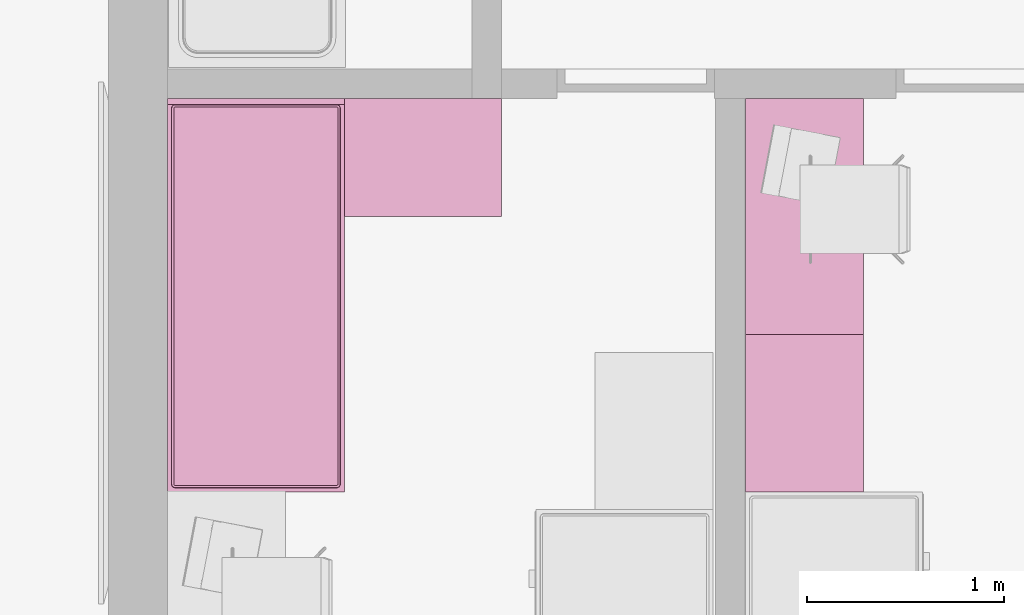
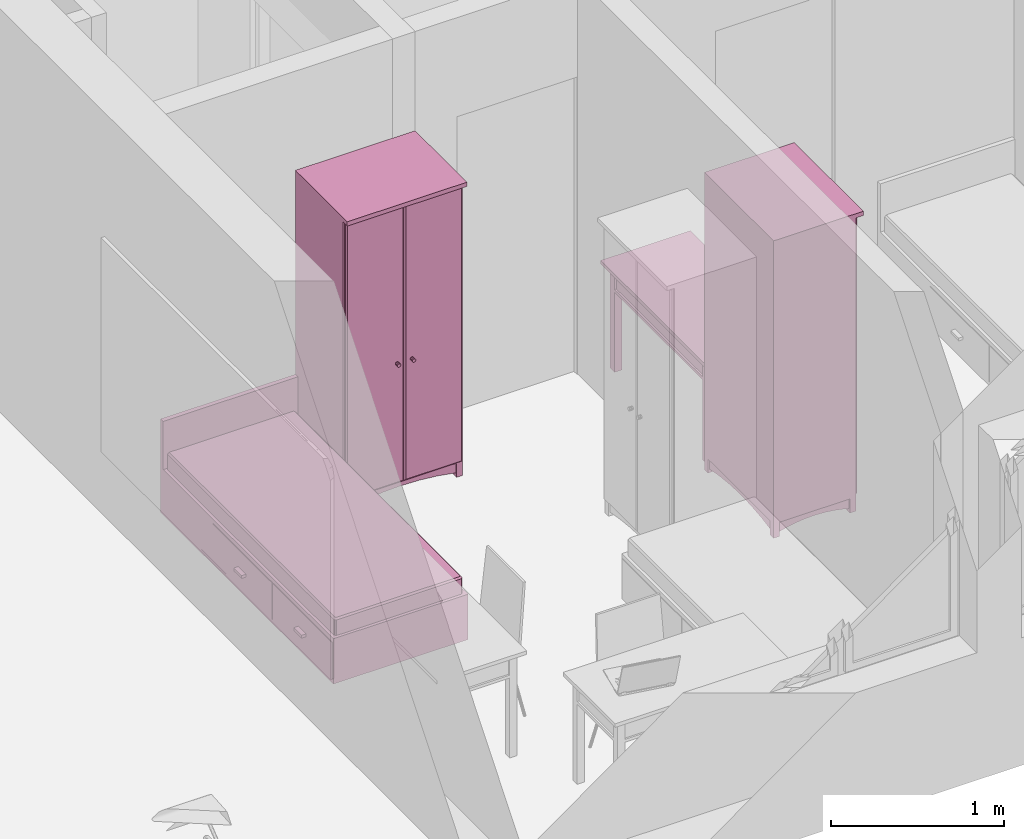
# One storey, part 117 of 165: 4 furnishings.
"""IFC2X3 building model written with IfcOpenShell, lengths in millimetres."""

from ifc_helpers import new_model, entity, si_unit, converted_unit, money_unit, direction, frame, origin_with_axes, place, context, subcontext, project, spatial, faceted_brep, source, transform, mapped, material, material_list, type_object, element, save


model = new_model("IFC2X3")

# Units and contexts
model_context = context("Model", 3, precision=1e-05, world=origin_with_axes(), true_north=direction((0.0, 1.0)))
body_context = subcontext(model_context, "Body", "Model", "MODEL_VIEW")
ifc_project = project(units=[si_unit("LENGTHUNIT", "METRE", prefix="MILLI"), si_unit("AREAUNIT", "SQUARE_METRE"), si_unit("VOLUMEUNIT", "CUBIC_METRE"), converted_unit("PLANEANGLEUNIT", "DEGREE", entity("IfcPlaneAngleMeasure", 0.0174532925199), si_unit("PLANEANGLEUNIT", "RADIAN"), dimensions=[0, 0, 0, 0, 0, 0, 0]), si_unit("SOLIDANGLEUNIT", "STERADIAN"), money_unit("USD"), converted_unit("TIMEUNIT", "Year", entity("IfcTimeMeasure", 31556926.0), si_unit("TIMEUNIT", "SECOND"), dimensions=[0, 0, 0, 0, 0, 0, 0]), si_unit("MASSUNIT", "GRAM"), si_unit("THERMODYNAMICTEMPERATUREUNIT", "DEGREE_CELSIUS"), si_unit("LUMINOUSINTENSITYUNIT", "LUMEN")], contexts=[model_context])

# Site, building, storey
site_placement = place(None, origin_with_axes())
site = spatial("IfcSite", under=ifc_project, at=site_placement, Name="Site", CompositionType="ELEMENT")
building_placement = place(site_placement, origin_with_axes())
building = spatial("IfcBuilding", under=site, at=building_placement, Name="Building", CompositionType="ELEMENT")
storey_placement = place(building_placement, frame((0.0, 0.0, 6300.0), z_axis=(0.0, 0.0, 1.0), x_axis=(1.0, 0.0, 0.0)))
storey = spatial("IfcBuildingStorey", under=building, at=storey_placement, Name="4KORRUS", CompositionType="ELEMENT", Elevation=6300.0)

# Furnishings
ifc_material = material(Name="Background")
ifc_material_list = material_list([ifc_material])
furnishing_element_type_1 = type_object("IfcFurnishingElementType", Name="Cupboard 19")
shared_shape_1 = source(origin_with_axes(), body_context, "Body", "Brep", [
    faceted_brep([(-780.0, 600.0, 120.0), (-780.0, 580.0, 120.0), (-780.0, 580.0, 2050.0), (-780.0, 600.0, 2050.0), (-20.0, 600.0, 120.0), (-20.0, 580.0, 120.0), (-20.0, 580.0, 2050.0), (-20.0, 600.0, 2050.0)], [[[0, 1, 2, 3]], [[0, 4, 5, 1]], [[1, 5, 6, 2]], [[3, 2, 6, 7]], [[4, 0, 3, 7]], [[5, 4, 7, 6]]]),
    faceted_brep([(0.0, 50.0, 100.0), (-20.0, 50.0, 100.0), (-20.0, 600.0, 100.0), (0.0, 600.0, 100.0), (0.0, 50.0, 2070.0), (-20.0, 50.0, 2070.0), (-20.0, 600.0, 2070.0), (0.0, 600.0, 2070.0)], [[[0, 1, 2, 3]], [[1, 0, 4, 5]], [[2, 1, 5, 6]], [[3, 2, 6, 7]], [[0, 3, 7, 4]], [[5, 4, 7, 6]]]),
    faceted_brep([(-780.0, 50.0, 100.0), (-800.0, 50.0, 100.0), (-800.0, 600.0, 100.0), (-780.0, 600.0, 100.0), (-780.0, 50.0, 2070.0), (-800.0, 50.0, 2070.0), (-800.0, 600.0, 2070.0), (-780.0, 600.0, 2070.0)], [[[0, 1, 2, 3]], [[1, 0, 4, 5]], [[2, 1, 5, 6]], [[3, 2, 6, 7]], [[0, 3, 7, 4]], [[5, 4, 7, 6]]]),
    faceted_brep([(-20.0, 50.0, 100.0), (-780.0, 50.0, 100.0), (-780.0, 600.0, 100.0), (-20.0, 600.0, 100.0), (-20.0, 50.0, 120.0), (-780.0, 50.0, 120.0), (-780.0, 600.0, 120.0), (-20.0, 600.0, 120.0)], [[[0, 1, 2, 3]], [[1, 0, 4, 5]], [[2, 1, 5, 6]], [[3, 2, 6, 7]], [[0, 3, 7, 4]], [[5, 4, 7, 6]]]),
    faceted_brep([(-20.0, 50.0, 2050.0), (-780.0, 50.0, 2050.0), (-780.0, 600.0, 2050.0), (-20.0, 600.0, 2050.0), (-20.0, 50.0, 2070.0), (-780.0, 50.0, 2070.0), (-780.0, 600.0, 2070.0), (-20.0, 600.0, 2070.0)], [[[0, 1, 2, 3]], [[1, 0, 4, 5]], [[2, 1, 5, 6]], [[3, 2, 6, 7]], [[0, 3, 7, 4]], [[5, 4, 7, 6]]]),
    faceted_brep([(0.0, 600.0, 2070.0), (0.0, 600.0, 2100.0), (0.0, 0.0, 2100.0), (0.0, 0.0, 2070.0), (-800.0, 600.0, 2070.0), (-800.0, 600.0, 2100.0), (-800.0, 0.0, 2100.0), (-800.0, 0.0, 2070.0)], [[[0, 1, 2, 3]], [[4, 5, 1, 0]], [[1, 5, 6, 2]], [[3, 2, 6, 7]], [[0, 3, 7, 4]], [[7, 6, 5, 4]]]),
    faceted_brep([(-760.0, 590.0, 25.0), (-640.962, 590.0, 45.8), (-640.962, 570.0, 45.8), (-760.0, 570.0, 25.0), (-760.0, 590.0, 100.0), (-40.0, 590.0, 100.0), (-40.0, 590.0, 25.0), (-159.038, 590.0, 45.8), (-279.23, 590.0, 58.32), (-400.0, 590.0, 62.5), (-520.77, 590.0, 58.32), (-520.77, 570.0, 58.32), (-400.0, 570.0, 62.5), (-279.23, 570.0, 58.32), (-159.038, 570.0, 45.8), (-40.0, 570.0, 25.0), (-40.0, 570.0, 100.0), (-760.0, 570.0, 100.0)], [[[0, 1, 2, 3]], [[0, 4, 5, 6, 7, 8, 9, 10, 1]], [[1, 10, 11, 2]], [[3, 2, 11, 12, 13, 14, 15, 16, 17]], [[4, 0, 3, 17]], [[5, 4, 17, 16]], [[6, 5, 16, 15]], [[7, 6, 15, 14]], [[8, 7, 14, 13]], [[9, 8, 13, 12]], [[10, 9, 12, 11]]]),
    faceted_brep([(-760.0, 80.0, 25.0), (-640.962, 80.0, 45.8), (-640.962, 60.0, 45.8), (-760.0, 60.0, 25.0), (-760.0, 80.0, 100.0), (-40.0, 80.0, 100.0), (-40.0, 80.0, 25.0), (-159.038, 80.0, 45.8), (-279.23, 80.0, 58.32), (-400.0, 80.0, 62.5), (-520.77, 80.0, 58.32), (-520.77, 60.0, 58.32), (-400.0, 60.0, 62.5), (-279.23, 60.0, 58.32), (-159.038, 60.0, 45.8), (-40.0, 60.0, 25.0), (-40.0, 60.0, 100.0), (-760.0, 60.0, 100.0)], [[[0, 1, 2, 3]], [[0, 4, 5, 6, 7, 8, 9, 10, 1]], [[1, 10, 11, 2]], [[3, 2, 11, 12, 13, 14, 15, 16, 17]], [[4, 0, 3, 17]], [[5, 4, 17, 16]], [[6, 5, 16, 15]], [[7, 6, 15, 14]], [[8, 7, 14, 13]], [[9, 8, 13, 12]], [[10, 9, 12, 11]]]),
    faceted_brep([(-790.0, 90.0, 25.0), (-790.0, 141.266, 38.072), (-770.0, 141.266, 38.072), (-770.0, 90.0, 25.0), (-790.0, 90.0, 100.0), (-790.0, 560.0, 100.0), (-790.0, 560.0, 25.0), (-790.0, 508.734, 38.072), (-790.0, 456.752, 47.92), (-790.0, 404.257, 54.508), (-790.0, 351.453, 57.808), (-790.0, 298.547, 57.808), (-790.0, 245.743, 54.508), (-790.0, 193.248, 47.92), (-770.0, 193.248, 47.92), (-770.0, 245.743, 54.508), (-770.0, 298.547, 57.808), (-770.0, 351.453, 57.808), (-770.0, 404.257, 54.508), (-770.0, 456.752, 47.92), (-770.0, 508.734, 38.072), (-770.0, 560.0, 25.0), (-770.0, 560.0, 100.0), (-770.0, 90.0, 100.0)], [[[0, 1, 2, 3]], [[0, 4, 5, 6, 7, 8, 9, 10, 11, 12, 13, 1]], [[1, 13, 14, 2]], [[3, 2, 14, 15, 16, 17, 18, 19, 20, 21, 22, 23]], [[4, 0, 3, 23]], [[5, 4, 23, 22]], [[6, 5, 22, 21]], [[7, 6, 21, 20]], [[8, 7, 20, 19]], [[9, 8, 19, 18]], [[10, 9, 18, 17]], [[11, 10, 17, 16]], [[12, 11, 16, 15]], [[13, 12, 15, 14]]]),
    faceted_brep([(-30.0, 90.0, 25.0), (-30.0, 141.266, 38.072), (-10.0, 141.266, 38.072), (-10.0, 90.0, 25.0), (-30.0, 90.0, 100.0), (-30.0, 560.0, 100.0), (-30.0, 560.0, 25.0), (-30.0, 508.734, 38.072), (-30.0, 456.752, 47.92), (-30.0, 404.257, 54.508), (-30.0, 351.453, 57.808), (-30.0, 298.547, 57.808), (-30.0, 245.743, 54.508), (-30.0, 193.248, 47.92), (-10.0, 193.248, 47.92), (-10.0, 245.743, 54.508), (-10.0, 298.547, 57.808), (-10.0, 351.453, 57.808), (-10.0, 404.257, 54.508), (-10.0, 456.752, 47.92), (-10.0, 508.734, 38.072), (-10.0, 560.0, 25.0), (-10.0, 560.0, 100.0), (-10.0, 90.0, 100.0)], [[[0, 1, 2, 3]], [[0, 4, 5, 6, 7, 8, 9, 10, 11, 12, 13, 1]], [[1, 13, 14, 2]], [[3, 2, 14, 15, 16, 17, 18, 19, 20, 21, 22, 23]], [[4, 0, 3, 23]], [[5, 4, 23, 22]], [[6, 5, 22, 21]], [[7, 6, 21, 20]], [[8, 7, 20, 19]], [[9, 8, 19, 18]], [[10, 9, 18, 17]], [[11, 10, 17, 16]], [[12, 11, 16, 15]], [[13, 12, 15, 14]]]),
    faceted_brep([(-760.0, 560.0, 0.0), (-760.0, 600.0, 0.0), (-760.0, 600.0, 100.0), (-760.0, 560.0, 100.0), (-800.0, 560.0, 0.0), (-800.0, 600.0, 0.0), (-800.0, 600.0, 100.0), (-800.0, 560.0, 100.0)], [[[0, 1, 2, 3]], [[0, 4, 5, 1]], [[1, 5, 6, 2]], [[3, 2, 6, 7]], [[4, 0, 3, 7]], [[5, 4, 7, 6]]]),
    faceted_brep([(0.0, 560.0, 0.0), (0.0, 600.0, 0.0), (0.0, 600.0, 100.0), (0.0, 560.0, 100.0), (-40.0, 560.0, 0.0), (-40.0, 600.0, 0.0), (-40.0, 600.0, 100.0), (-40.0, 560.0, 100.0)], [[[0, 1, 2, 3]], [[0, 4, 5, 1]], [[1, 5, 6, 2]], [[3, 2, 6, 7]], [[4, 0, 3, 7]], [[5, 4, 7, 6]]]),
    faceted_brep([(-760.0, 50.0, 0.0), (-760.0, 90.0, 0.0), (-760.0, 90.0, 100.0), (-760.0, 50.0, 100.0), (-800.0, 50.0, 0.0), (-800.0, 90.0, 0.0), (-800.0, 90.0, 100.0), (-800.0, 50.0, 100.0)], [[[0, 1, 2, 3]], [[0, 4, 5, 1]], [[1, 5, 6, 2]], [[3, 2, 6, 7]], [[4, 0, 3, 7]], [[5, 4, 7, 6]]]),
    faceted_brep([(0.0, 50.0, 0.0), (0.0, 90.0, 0.0), (0.0, 90.0, 100.0), (0.0, 50.0, 100.0), (-40.0, 50.0, 0.0), (-40.0, 90.0, 0.0), (-40.0, 90.0, 100.0), (-40.0, 50.0, 100.0)], [[[0, 1, 2, 3]], [[0, 4, 5, 1]], [[1, 5, 6, 2]], [[3, 2, 6, 7]], [[4, 0, 3, 7]], [[5, 4, 7, 6]]]),
    faceted_brep([(-780.0, 580.0, 587.5), (-780.0, 50.0, 587.5), (-780.0, 50.0, 607.5), (-780.0, 580.0, 607.5), (-20.0, 580.0, 587.5), (-20.0, 50.0, 587.5), (-20.0, 50.0, 607.5), (-20.0, 580.0, 607.5)], [[[0, 1, 2, 3]], [[0, 4, 5, 1]], [[1, 5, 6, 2]], [[3, 2, 6, 7]], [[4, 0, 3, 7]], [[5, 4, 7, 6]]]),
    faceted_brep([(-780.0, 580.0, 1075.0), (-780.0, 50.0, 1075.0), (-780.0, 50.0, 1095.0), (-780.0, 580.0, 1095.0), (-20.0, 580.0, 1075.0), (-20.0, 50.0, 1075.0), (-20.0, 50.0, 1095.0), (-20.0, 580.0, 1095.0)], [[[0, 1, 2, 3]], [[0, 4, 5, 1]], [[1, 5, 6, 2]], [[3, 2, 6, 7]], [[4, 0, 3, 7]], [[5, 4, 7, 6]]]),
    faceted_brep([(-780.0, 580.0, 1562.5), (-780.0, 50.0, 1562.5), (-780.0, 50.0, 1582.5), (-780.0, 580.0, 1582.5), (-20.0, 580.0, 1562.5), (-20.0, 50.0, 1562.5), (-20.0, 50.0, 1582.5), (-20.0, 580.0, 1582.5)], [[[0, 1, 2, 3]], [[0, 4, 5, 1]], [[1, 5, 6, 2]], [[3, 2, 6, 7]], [[4, 0, 3, 7]], [[5, 4, 7, 6]]]),
    faceted_brep([(-789.5, 50.0, 110.5), (-789.5, 50.0, 2059.5), (-400.5, 50.0, 2059.5), (-400.5, 50.0, 110.5), (-789.5, 40.0, 110.5), (-789.5, 40.0, 2059.5), (-400.5, 40.0, 2059.5), (-400.5, 40.0, 110.5), (-779.5, 30.0, 120.5), (-779.5, 30.0, 2049.5), (-410.5, 30.0, 2049.5), (-410.5, 30.0, 120.5)], [[[0, 1, 2, 3]], [[1, 0, 4, 5]], [[2, 1, 5, 6]], [[3, 2, 6, 7]], [[0, 3, 7, 4]], [[5, 4, 8, 9]], [[6, 5, 9, 10]], [[7, 6, 10, 11]], [[4, 7, 11, 8]], [[10, 9, 8, 11]]]),
    faceted_brep([(-399.5, 50.0, 110.5), (-399.5, 50.0, 2059.5), (-10.5, 50.0, 2059.5), (-10.5, 50.0, 110.5), (-399.5, 40.0, 110.5), (-399.5, 40.0, 2059.5), (-10.5, 40.0, 2059.5), (-10.5, 40.0, 110.5), (-389.5, 30.0, 120.5), (-389.5, 30.0, 2049.5), (-20.5, 30.0, 2049.5), (-20.5, 30.0, 120.5)], [[[0, 1, 2, 3]], [[1, 0, 4, 5]], [[2, 1, 5, 6]], [[3, 2, 6, 7]], [[0, 3, 7, 4]], [[5, 4, 8, 9]], [[6, 5, 9, 10]], [[7, 6, 10, 11]], [[4, 7, 11, 8]], [[10, 9, 8, 11]]]),
    faceted_brep([(-339.608, 30.0, 954.0), (-344.0, 30.0, 949.608), (-350.0, 30.0, 948.0), (-356.0, 30.0, 949.608), (-360.392, 30.0, 954.0), (-362.0, 30.0, 960.0), (-360.392, 30.0, 966.0), (-356.0, 30.0, 970.392), (-350.0, 30.0, 972.0), (-344.0, 30.0, 970.392), (-339.608, 30.0, 966.0), (-338.0, 30.0, 960.0), (-339.608, 5.0, 954.0), (-344.0, 5.0, 949.608), (-350.0, 5.0, 948.0), (-356.0, 5.0, 949.608), (-360.392, 5.0, 954.0), (-362.0, 5.0, 960.0), (-360.392, 5.0, 966.0), (-356.0, 5.0, 970.392), (-350.0, 5.0, 972.0), (-344.0, 5.0, 970.392), (-339.608, 5.0, 966.0), (-338.0, 5.0, 960.0)], [[[0, 1, 2, 3, 4, 5, 6, 7, 8, 9, 10, 11]], [[1, 0, 12, 13]], [[2, 1, 13, 14]], [[3, 2, 14, 15]], [[4, 3, 15, 16]], [[5, 4, 16, 17]], [[6, 5, 17, 18]], [[7, 6, 18, 19]], [[8, 7, 19, 20]], [[9, 8, 20, 21]], [[10, 9, 21, 22]], [[11, 10, 22, 23]], [[0, 11, 23, 12]], [[12, 23, 22, 21, 20, 19, 18, 17, 16, 15, 14, 13]]]),
    faceted_brep([(-460.392, 30.0, 954.0), (-462.0, 30.0, 960.0), (-460.392, 30.0, 966.0), (-456.0, 30.0, 970.392), (-450.0, 30.0, 972.0), (-444.0, 30.0, 970.392), (-439.608, 30.0, 966.0), (-438.0, 30.0, 960.0), (-439.608, 30.0, 954.0), (-444.0, 30.0, 949.608), (-450.0, 30.0, 948.0), (-456.0, 30.0, 949.608), (-460.392, 5.0, 954.0), (-462.0, 5.0, 960.0), (-460.392, 5.0, 966.0), (-456.0, 5.0, 970.392), (-450.0, 5.0, 972.0), (-444.0, 5.0, 970.392), (-439.608, 5.0, 966.0), (-438.0, 5.0, 960.0), (-439.608, 5.0, 954.0), (-444.0, 5.0, 949.608), (-450.0, 5.0, 948.0), (-456.0, 5.0, 949.608)], [[[0, 1, 2, 3, 4, 5, 6, 7, 8, 9, 10, 11]], [[0, 12, 13, 1]], [[1, 13, 14, 2]], [[2, 14, 15, 3]], [[3, 15, 16, 4]], [[4, 16, 17, 5]], [[5, 17, 18, 6]], [[6, 18, 19, 7]], [[7, 19, 20, 8]], [[8, 20, 21, 9]], [[9, 21, 22, 10]], [[10, 22, 23, 11]], [[11, 23, 12, 0]], [[12, 23, 22, 21, 20, 19, 18, 17, 16, 15, 14, 13]]]),
])
for number, where, z_axis, x_axis, name in (
    (1, (-4290.29670331, -16039.2398994, 0.0), (0.0, 0.0, 1.0), (1.0, 0.0, 0.0), "FU - 014"),
    (2, (-2450.43715218, -16639.2398994, 0.0), (0.0, 0.0, 1.0), (0.0, 1.0, 0.0), "FU - 014"),
):
    element("IfcFurnishingElement", number, at=place(storey_placement, frame(where, z_axis=z_axis, x_axis=x_axis)), inside=storey, type_object=furnishing_element_type_1, material=ifc_material_list, Name=name, context=body_context, shape_type="MappedRepresentation", body=[
        mapped(shared_shape_1, transform((0.0, 0.0, 0.0))),
    ])
furnishing_element_type_2 = type_object("IfcFurnishingElementType", Name="Bed 19")
shared_shape_2 = source(origin_with_axes(), body_context, "Body", "Brep", [
    faceted_brep([(-900.0, 1970.0, 0.0), (-900.0, 2000.0, 0.0), (0.0, 2000.0, 0.0), (0.0, 1970.0, 0.0), (-900.0, 1970.0, 660.0), (-900.0, 2000.0, 660.0), (0.0, 2000.0, 660.0), (0.0, 1970.0, 660.0)], [[[0, 1, 2, 3]], [[0, 4, 5, 1]], [[1, 5, 6, 2]], [[2, 6, 7, 3]], [[3, 7, 4, 0]], [[7, 6, 5, 4]]]),
    faceted_brep([(-900.0, 0.0, 0.0), (-900.0, 1970.0, 0.0), (0.0, 1970.0, 0.0), (0.0, 0.0, 0.0), (-900.0, 0.0, 320.0), (-900.0, 1970.0, 320.0), (0.0, 1970.0, 320.0), (0.0, 0.0, 320.0)], [[[0, 1, 2, 3]], [[0, 4, 5, 1]], [[1, 5, 6, 2]], [[2, 6, 7, 3]], [[3, 7, 4, 0]], [[7, 6, 5, 4]]]),
    faceted_brep([(-905.0, 10.0, 30.0), (-905.0, 695.0, 30.0), (-900.0, 695.0, 30.0), (-900.0, 10.0, 30.0), (-905.0, 10.0, 290.0), (-905.0, 695.0, 290.0), (-900.0, 695.0, 290.0), (-900.0, 10.0, 290.0)], [[[0, 1, 2, 3]], [[0, 4, 5, 1]], [[1, 5, 6, 2]], [[2, 6, 7, 3]], [[3, 7, 4, 0]], [[7, 6, 5, 4]]]),
    faceted_brep([(-935.0, 307.5, 150.0), (-935.0, 397.5, 150.0), (-905.0, 397.5, 150.0), (-905.0, 307.5, 150.0), (-935.0, 307.5, 170.0), (-935.0, 397.5, 170.0), (-905.0, 397.5, 170.0), (-905.0, 307.5, 170.0)], [[[0, 1, 2, 3]], [[0, 4, 5, 1]], [[1, 5, 6, 2]], [[2, 6, 7, 3]], [[3, 7, 4, 0]], [[7, 6, 5, 4]]]),
    faceted_brep([(-905.0, 705.0, 30.0), (-905.0, 1390.0, 30.0), (-900.0, 1390.0, 30.0), (-900.0, 705.0, 30.0), (-905.0, 705.0, 290.0), (-905.0, 1390.0, 290.0), (-900.0, 1390.0, 290.0), (-900.0, 705.0, 290.0)], [[[0, 1, 2, 3]], [[0, 4, 5, 1]], [[1, 5, 6, 2]], [[2, 6, 7, 3]], [[3, 7, 4, 0]], [[7, 6, 5, 4]]]),
    faceted_brep([(-935.0, 1002.5, 150.0), (-935.0, 1092.5, 150.0), (-905.0, 1092.5, 150.0), (-905.0, 1002.5, 150.0), (-935.0, 1002.5, 170.0), (-935.0, 1092.5, 170.0), (-905.0, 1092.5, 170.0), (-905.0, 1002.5, 170.0)], [[[0, 1, 2, 3]], [[0, 4, 5, 1]], [[1, 5, 6, 2]], [[2, 6, 7, 3]], [[3, 7, 4, 0]], [[7, 6, 5, 4]]]),
    faceted_brep([(-20.0, 40.0, 350.0), (-21.522, 32.346, 350.0), (-25.858, 25.858, 350.0), (-32.346, 21.522, 350.0), (-40.0, 20.0, 350.0), (-860.0, 20.0, 350.0), (-867.654, 21.522, 350.0), (-874.142, 25.858, 350.0), (-878.478, 32.346, 350.0), (-880.0, 40.0, 350.0), (-880.0, 1950.0, 350.0), (-878.478, 1957.654, 350.0), (-874.142, 1964.142, 350.0), (-867.654, 1968.478, 350.0), (-860.0, 1970.0, 350.0), (-40.0, 1970.0, 350.0), (-32.346, 1968.478, 350.0), (-25.858, 1964.142, 350.0), (-21.522, 1957.654, 350.0), (-20.0, 1950.0, 350.0), (-20.0, 40.0, 420.0), (-21.522, 32.346, 420.0), (-25.858, 25.858, 420.0), (-32.346, 21.522, 420.0), (-40.0, 20.0, 420.0), (-860.0, 20.0, 420.0), (-867.654, 21.522, 420.0), (-874.142, 25.858, 420.0), (-878.478, 32.346, 420.0), (-880.0, 40.0, 420.0), (-880.0, 1950.0, 420.0), (-878.478, 1957.654, 420.0), (-874.142, 1964.142, 420.0), (-867.654, 1968.478, 420.0), (-860.0, 1970.0, 420.0), (-40.0, 1970.0, 420.0), (-32.346, 1968.478, 420.0), (-25.858, 1964.142, 420.0), (-21.522, 1957.654, 420.0), (-20.0, 1950.0, 420.0), (-21.522, 40.15, 427.654), (-22.956, 32.94, 427.654), (-26.955, 26.955, 427.654), (-32.94, 22.956, 427.654), (-40.15, 21.522, 427.654), (-859.85, 21.522, 427.654), (-867.06, 22.956, 427.654), (-873.045, 26.955, 427.654), (-877.044, 32.94, 427.654), (-878.478, 40.15, 427.654), (-878.478, 1949.85, 427.654), (-877.044, 1957.06, 427.654), (-873.045, 1963.045, 427.654), (-867.06, 1967.044, 427.654), (-859.85, 1968.478, 427.654), (-40.15, 1968.478, 427.654), (-32.94, 1967.044, 427.654), (-26.955, 1963.045, 427.654), (-22.956, 1957.06, 427.654), (-21.522, 1949.85, 427.654), (-32.346, 41.216, 438.478), (-33.152, 37.164, 438.478), (-34.759, 34.759, 438.478), (-37.164, 33.152, 438.478), (-41.216, 32.346, 438.478), (-858.784, 32.346, 438.478), (-862.836, 33.152, 438.478), (-865.241, 34.759, 438.478), (-866.848, 37.164, 438.478), (-867.654, 41.216, 438.478), (-867.654, 1948.784, 438.478), (-866.848, 1952.836, 438.478), (-865.241, 1955.241, 438.478), (-862.836, 1956.848, 438.478), (-858.784, 1957.654, 438.478), (-41.216, 1957.654, 438.478), (-37.164, 1956.848, 438.478), (-34.759, 1955.241, 438.478), (-33.152, 1952.836, 438.478), (-32.346, 1948.784, 438.478), (-40.0, 41.97, 440.0), (-40.327, 40.327, 440.0), (-40.0, 40.0, 439.924), (-41.97, 40.0, 440.0), (-858.03, 40.0, 440.0), (-859.673, 40.327, 440.0), (-860.0, 40.0, 439.924), (-860.0, 41.97, 440.0), (-860.0, 1948.03, 440.0), (-859.673, 1949.673, 440.0), (-860.0, 1950.0, 439.924), (-858.03, 1950.0, 440.0), (-41.97, 1950.0, 440.0), (-40.327, 1949.673, 440.0), (-40.0, 1950.0, 439.924), (-40.0, 1948.03, 440.0)], [[[0, 1, 2, 3, 4, 5, 6, 7, 8, 9, 10, 11, 12, 13, 14, 15, 16, 17, 18, 19]], [[0, 20, 21, 1]], [[1, 21, 22, 2]], [[2, 22, 23, 3]], [[3, 23, 24, 4]], [[4, 24, 25, 5]], [[5, 25, 26, 6]], [[6, 26, 27, 7]], [[7, 27, 28, 8]], [[8, 28, 29, 9]], [[9, 29, 30, 10]], [[10, 30, 31, 11]], [[11, 31, 32, 12]], [[12, 32, 33, 13]], [[13, 33, 34, 14]], [[14, 34, 35, 15]], [[15, 35, 36, 16]], [[16, 36, 37, 17]], [[17, 37, 38, 18]], [[18, 38, 39, 19]], [[19, 39, 20, 0]], [[20, 40, 41, 21]], [[21, 41, 42, 22]], [[22, 42, 43, 23]], [[23, 43, 44, 24]], [[24, 44, 45, 25]], [[25, 45, 46, 26]], [[26, 46, 47, 27]], [[27, 47, 48, 28]], [[28, 48, 49, 29]], [[29, 49, 50, 30]], [[30, 50, 51, 31]], [[31, 51, 52, 32]], [[32, 52, 53, 33]], [[33, 53, 54, 34]], [[34, 54, 55, 35]], [[35, 55, 56, 36]], [[36, 56, 57, 37]], [[37, 57, 58, 38]], [[38, 58, 59, 39]], [[39, 59, 40, 20]], [[40, 60, 61, 41]], [[41, 61, 62, 42]], [[42, 62, 63, 43]], [[43, 63, 64, 44]], [[44, 64, 65, 45]], [[45, 65, 66, 46]], [[46, 66, 67, 47]], [[47, 67, 68, 48]], [[48, 68, 69, 49]], [[49, 69, 70, 50]], [[50, 70, 71, 51]], [[51, 71, 72, 52]], [[52, 72, 73, 53]], [[53, 73, 74, 54]], [[54, 74, 75, 55]], [[55, 75, 76, 56]], [[56, 76, 77, 57]], [[57, 77, 78, 58]], [[58, 78, 79, 59]], [[59, 79, 60, 40]], [[60, 80, 81, 82, 61]], [[61, 82, 62]], [[62, 82, 63]], [[63, 82, 81, 83, 64]], [[64, 83, 84, 65]], [[65, 84, 85, 86, 66]], [[66, 86, 67]], [[67, 86, 68]], [[68, 86, 85, 87, 69]], [[69, 87, 88, 70]], [[70, 88, 89, 90, 71]], [[71, 90, 72]], [[72, 90, 73]], [[73, 90, 89, 91, 74]], [[74, 91, 92, 75]], [[75, 92, 93, 94, 76]], [[76, 94, 77]], [[77, 94, 78]], [[78, 94, 93, 95, 79]], [[79, 95, 80, 60]], [[95, 93, 92, 91, 89, 88, 87, 85, 84, 83, 81, 80]]]),
    faceted_brep([(-20.0, 40.0, 350.0), (-20.0, 1950.0, 350.0), (-21.522, 1957.654, 350.0), (-25.858, 1964.142, 350.0), (-32.346, 1968.478, 350.0), (-40.0, 1970.0, 350.0), (-860.0, 1970.0, 350.0), (-867.654, 1968.478, 350.0), (-874.142, 1964.142, 350.0), (-878.478, 1957.654, 350.0), (-880.0, 1950.0, 350.0), (-880.0, 40.0, 350.0), (-878.478, 32.346, 350.0), (-874.142, 25.858, 350.0), (-867.654, 21.522, 350.0), (-860.0, 20.0, 350.0), (-40.0, 20.0, 350.0), (-32.346, 21.522, 350.0), (-25.858, 25.858, 350.0), (-21.522, 32.346, 350.0), (-20.0, 40.0, 320.0), (-20.0, 1950.0, 320.0), (-21.522, 1957.654, 320.0), (-25.858, 1964.142, 320.0), (-32.346, 1968.478, 320.0), (-40.0, 1970.0, 320.0), (-860.0, 1970.0, 320.0), (-867.654, 1968.478, 320.0), (-874.142, 1964.142, 320.0), (-878.478, 1957.654, 320.0), (-880.0, 1950.0, 320.0), (-880.0, 40.0, 320.0), (-878.478, 32.346, 320.0), (-874.142, 25.858, 320.0), (-867.654, 21.522, 320.0), (-860.0, 20.0, 320.0), (-40.0, 20.0, 320.0), (-32.346, 21.522, 320.0), (-25.858, 25.858, 320.0), (-21.522, 32.346, 320.0)], [[[0, 1, 2, 3, 4, 5, 6, 7, 8, 9, 10, 11, 12, 13, 14, 15, 16, 17, 18, 19]], [[1, 0, 20, 21]], [[2, 1, 21, 22]], [[3, 2, 22, 23]], [[4, 3, 23, 24]], [[5, 4, 24, 25]], [[6, 5, 25, 26]], [[7, 6, 26, 27]], [[8, 7, 27, 28]], [[9, 8, 28, 29]], [[10, 9, 29, 30]], [[11, 10, 30, 31]], [[12, 11, 31, 32]], [[13, 12, 32, 33]], [[14, 13, 33, 34]], [[15, 14, 34, 35]], [[16, 15, 35, 36]], [[17, 16, 36, 37]], [[18, 17, 37, 38]], [[19, 18, 38, 39]], [[0, 19, 39, 20]], [[20, 39, 38, 37, 36, 35, 34, 33, 32, 31, 30, 29, 28, 27, 26, 25, 24, 23, 22, 21]]]),
])
furnishing_1_placement = place(storey_placement, frame((-5090.29670331, -17439.2398994, 0.0), z_axis=(0.0, 0.0, 1.0), x_axis=(1.0, 0.0, 0.0)))
element("IfcFurnishingElement", 3, at=furnishing_1_placement, inside=storey, type_object=furnishing_element_type_2, material=ifc_material_list, Name="FU - 013", context=body_context, shape_type="MappedRepresentation", body=[
    mapped(shared_shape_2, transform((0.0, 0.0, 0.0))),
])
furnishing_element_type_3 = type_object("IfcFurnishingElementType", Name="Rectangular Table 01 19")
shared_shape_3 = source(origin_with_axes(), body_context, "Body", "Brep", [
    faceted_brep([(-90.0, 40.0, 0.0), (-90.0, 90.0, 0.0), (-40.0, 90.0, 0.0), (-40.0, 40.0, 0.0), (-90.0, 40.0, 725.0), (-90.0, 90.0, 725.0), (-40.0, 90.0, 725.0), (-40.0, 40.0, 725.0)], [[[0, 1, 2, 3]], [[0, 4, 5, 1]], [[1, 5, 6, 2]], [[2, 6, 7, 3]], [[3, 7, 4, 0]], [[7, 6, 5, 4]]]),
    faceted_brep([(-1160.0, 40.0, 0.0), (-1160.0, 90.0, 0.0), (-1110.0, 90.0, 0.0), (-1110.0, 40.0, 0.0), (-1160.0, 40.0, 725.0), (-1160.0, 90.0, 725.0), (-1110.0, 90.0, 725.0), (-1110.0, 40.0, 725.0)], [[[0, 1, 2, 3]], [[0, 4, 5, 1]], [[1, 5, 6, 2]], [[2, 6, 7, 3]], [[3, 7, 4, 0]], [[7, 6, 5, 4]]]),
    faceted_brep([(-90.0, 510.0, 0.0), (-90.0, 560.0, 0.0), (-40.0, 560.0, 0.0), (-40.0, 510.0, 0.0), (-90.0, 510.0, 725.0), (-90.0, 560.0, 725.0), (-40.0, 560.0, 725.0), (-40.0, 510.0, 725.0)], [[[0, 1, 2, 3]], [[0, 4, 5, 1]], [[1, 5, 6, 2]], [[2, 6, 7, 3]], [[3, 7, 4, 0]], [[7, 6, 5, 4]]]),
    faceted_brep([(-1160.0, 510.0, 0.0), (-1160.0, 560.0, 0.0), (-1110.0, 560.0, 0.0), (-1110.0, 510.0, 0.0), (-1160.0, 510.0, 725.0), (-1160.0, 560.0, 725.0), (-1110.0, 560.0, 725.0), (-1110.0, 510.0, 725.0)], [[[0, 1, 2, 3]], [[0, 4, 5, 1]], [[1, 5, 6, 2]], [[2, 6, 7, 3]], [[3, 7, 4, 0]], [[7, 6, 5, 4]]]),
    faceted_brep([(-1160.0, 40.0, 565.0), (-1160.0, 560.0, 565.0), (-40.0, 560.0, 565.0), (-40.0, 40.0, 565.0), (-1160.0, 40.0, 585.0), (-1160.0, 560.0, 585.0), (-40.0, 560.0, 585.0), (-40.0, 40.0, 585.0)], [[[0, 1, 2, 3]], [[0, 4, 5, 1]], [[1, 5, 6, 2]], [[2, 6, 7, 3]], [[3, 7, 4, 0]], [[7, 6, 5, 4]]]),
    faceted_brep([(-1110.0, 52.5, 585.0), (-1110.0, 77.5, 585.0), (-90.0, 77.5, 585.0), (-90.0, 52.5, 585.0), (-1110.0, 52.5, 745.0), (-1110.0, 77.5, 745.0), (-90.0, 77.5, 745.0), (-90.0, 52.5, 745.0)], [[[0, 1, 2, 3]], [[0, 4, 5, 1]], [[1, 5, 6, 2]], [[2, 6, 7, 3]], [[3, 7, 4, 0]], [[7, 6, 5, 4]]]),
    faceted_brep([(-77.5, 90.0, 585.0), (-77.5, 510.0, 585.0), (-52.5, 510.0, 585.0), (-52.5, 90.0, 585.0), (-77.5, 90.0, 745.0), (-77.5, 510.0, 745.0), (-52.5, 510.0, 745.0), (-52.5, 90.0, 745.0)], [[[0, 1, 2, 3]], [[0, 4, 5, 1]], [[1, 5, 6, 2]], [[2, 6, 7, 3]], [[3, 7, 4, 0]], [[7, 6, 5, 4]]]),
    faceted_brep([(-90.0, 547.5, 585.0), (-90.0, 522.5, 585.0), (-1110.0, 522.5, 585.0), (-1110.0, 547.5, 585.0), (-90.0, 547.5, 745.0), (-90.0, 522.5, 745.0), (-1110.0, 522.5, 745.0), (-1110.0, 547.5, 745.0)], [[[0, 1, 2, 3]], [[0, 4, 5, 1]], [[1, 5, 6, 2]], [[2, 6, 7, 3]], [[3, 7, 4, 0]], [[7, 6, 5, 4]]]),
    faceted_brep([(-1122.5, 510.0, 585.0), (-1122.5, 90.0, 585.0), (-1147.5, 90.0, 585.0), (-1147.5, 510.0, 585.0), (-1122.5, 510.0, 745.0), (-1122.5, 90.0, 745.0), (-1147.5, 90.0, 745.0), (-1147.5, 510.0, 745.0)], [[[0, 1, 2, 3]], [[0, 4, 5, 1]], [[1, 5, 6, 2]], [[2, 6, 7, 3]], [[3, 7, 4, 0]], [[7, 6, 5, 4]]]),
    faceted_brep([(-597.5, 40.0, 585.0), (-597.5, 60.0, 585.0), (-95.0, 60.0, 585.0), (-95.0, 40.0, 585.0), (-597.5, 40.0, 745.0), (-597.5, 60.0, 745.0), (-95.0, 60.0, 745.0), (-95.0, 40.0, 745.0)], [[[0, 1, 2, 3]], [[0, 4, 5, 1]], [[1, 5, 6, 2]], [[2, 6, 7, 3]], [[3, 7, 4, 0]], [[7, 6, 5, 4]]]),
    faceted_brep([(-1105.0, 40.0, 585.0), (-1105.0, 60.0, 585.0), (-602.5, 60.0, 585.0), (-602.5, 40.0, 585.0), (-1105.0, 40.0, 745.0), (-1105.0, 60.0, 745.0), (-602.5, 60.0, 745.0), (-602.5, 40.0, 745.0)], [[[0, 1, 2, 3]], [[0, 4, 5, 1]], [[1, 5, 6, 2]], [[2, 6, 7, 3]], [[3, 7, 4, 0]], [[7, 6, 5, 4]]]),
    faceted_brep([(-354.91, 40.0, 660.0), (-356.25, 40.0, 665.0), (-354.91, 40.0, 670.0), (-351.25, 40.0, 673.66), (-346.25, 40.0, 675.0), (-341.25, 40.0, 673.66), (-337.59, 40.0, 670.0), (-336.25, 40.0, 665.0), (-337.59, 40.0, 660.0), (-341.25, 40.0, 656.34), (-346.25, 40.0, 655.0), (-351.25, 40.0, 656.34), (-354.91, 25.0, 660.0), (-356.25, 25.0, 665.0), (-354.91, 25.0, 670.0), (-351.25, 25.0, 673.66), (-346.25, 25.0, 675.0), (-341.25, 25.0, 673.66), (-337.59, 25.0, 670.0), (-336.25, 25.0, 665.0), (-337.59, 25.0, 660.0), (-341.25, 25.0, 656.34), (-346.25, 25.0, 655.0), (-351.25, 25.0, 656.34)], [[[0, 1, 2, 3, 4, 5, 6, 7, 8, 9, 10, 11]], [[0, 12, 13, 1]], [[1, 13, 14, 2]], [[2, 14, 15, 3]], [[3, 15, 16, 4]], [[4, 16, 17, 5]], [[5, 17, 18, 6]], [[6, 18, 19, 7]], [[7, 19, 20, 8]], [[8, 20, 21, 9]], [[9, 21, 22, 10]], [[10, 22, 23, 11]], [[11, 23, 12, 0]], [[12, 23, 22, 21, 20, 19, 18, 17, 16, 15, 14, 13]]]),
    faceted_brep([(-356.25, 12.01, 665.0), (-354.91, 12.01, 660.0), (-346.25, 10.0, 665.0), (-363.571, 17.5, 665.0), (-361.25, 17.5, 656.34), (-351.25, 12.01, 656.34), (-354.91, 12.01, 670.0), (-366.25, 25.0, 665.0), (-363.571, 25.0, 655.0), (-354.91, 17.5, 650.0), (-361.25, 17.5, 673.66), (-346.25, 12.01, 655.0), (-351.25, 12.01, 673.66), (-363.571, 25.0, 675.0), (-356.25, 25.0, 682.321), (-346.25, 25.0, 685.0), (-336.25, 25.0, 682.321), (-328.929, 25.0, 675.0), (-326.25, 25.0, 665.0), (-328.929, 25.0, 655.0), (-336.25, 25.0, 647.679), (-346.25, 25.0, 645.0), (-356.25, 25.0, 647.679), (-346.25, 17.5, 647.679), (-354.91, 17.5, 680.0), (-341.25, 12.01, 656.34), (-346.25, 12.01, 675.0), (-346.25, 17.5, 682.321), (-337.59, 17.5, 680.0), (-331.25, 17.5, 673.66), (-328.929, 17.5, 665.0), (-331.25, 17.5, 656.34), (-337.59, 17.5, 650.0), (-337.59, 12.01, 660.0), (-341.25, 12.01, 673.66), (-337.59, 12.01, 670.0), (-336.25, 12.01, 665.0)], [[[0, 1, 2]], [[3, 4, 1, 0]], [[1, 5, 2]], [[6, 0, 2]], [[7, 8, 4, 3]], [[4, 9, 5, 1]], [[10, 3, 0, 6]], [[5, 11, 2]], [[12, 6, 2]], [[8, 7, 13, 14, 15, 16, 17, 18, 19, 20, 21, 22]], [[8, 22, 9, 4]], [[13, 7, 3, 10]], [[9, 23, 11, 5]], [[24, 10, 6, 12]], [[11, 25, 2]], [[26, 12, 2]], [[14, 13, 10, 24]], [[15, 14, 24, 27]], [[16, 15, 27, 28]], [[17, 16, 28, 29]], [[18, 17, 29, 30]], [[19, 18, 30, 31]], [[20, 19, 31, 32]], [[21, 20, 32, 23]], [[22, 21, 23, 9]], [[23, 32, 25, 11]], [[27, 24, 12, 26]], [[25, 33, 2]], [[34, 26, 2]], [[28, 27, 26, 34]], [[29, 28, 34, 35]], [[30, 29, 35, 36]], [[31, 30, 36, 33]], [[32, 31, 33, 25]], [[33, 36, 2]], [[35, 34, 2]], [[36, 35, 2]]]),
    faceted_brep([(-862.41, 40.0, 660.0), (-863.75, 40.0, 665.0), (-862.41, 40.0, 670.0), (-858.75, 40.0, 673.66), (-853.75, 40.0, 675.0), (-848.75, 40.0, 673.66), (-845.09, 40.0, 670.0), (-843.75, 40.0, 665.0), (-845.09, 40.0, 660.0), (-848.75, 40.0, 656.34), (-853.75, 40.0, 655.0), (-858.75, 40.0, 656.34), (-862.41, 25.0, 660.0), (-863.75, 25.0, 665.0), (-862.41, 25.0, 670.0), (-858.75, 25.0, 673.66), (-853.75, 25.0, 675.0), (-848.75, 25.0, 673.66), (-845.09, 25.0, 670.0), (-843.75, 25.0, 665.0), (-845.09, 25.0, 660.0), (-848.75, 25.0, 656.34), (-853.75, 25.0, 655.0), (-858.75, 25.0, 656.34)], [[[0, 1, 2, 3, 4, 5, 6, 7, 8, 9, 10, 11]], [[0, 12, 13, 1]], [[1, 13, 14, 2]], [[2, 14, 15, 3]], [[3, 15, 16, 4]], [[4, 16, 17, 5]], [[5, 17, 18, 6]], [[6, 18, 19, 7]], [[7, 19, 20, 8]], [[8, 20, 21, 9]], [[9, 21, 22, 10]], [[10, 22, 23, 11]], [[11, 23, 12, 0]], [[12, 23, 22, 21, 20, 19, 18, 17, 16, 15, 14, 13]]]),
    faceted_brep([(-863.75, 12.01, 665.0), (-862.41, 12.01, 660.0), (-853.75, 10.0, 665.0), (-871.071, 17.5, 665.0), (-868.75, 17.5, 656.34), (-858.75, 12.01, 656.34), (-862.41, 12.01, 670.0), (-873.75, 25.0, 665.0), (-871.071, 25.0, 655.0), (-862.41, 17.5, 650.0), (-868.75, 17.5, 673.66), (-853.75, 12.01, 655.0), (-858.75, 12.01, 673.66), (-871.071, 25.0, 675.0), (-863.75, 25.0, 682.321), (-853.75, 25.0, 685.0), (-843.75, 25.0, 682.321), (-836.429, 25.0, 675.0), (-833.75, 25.0, 665.0), (-836.429, 25.0, 655.0), (-843.75, 25.0, 647.679), (-853.75, 25.0, 645.0), (-863.75, 25.0, 647.679), (-853.75, 17.5, 647.679), (-862.41, 17.5, 680.0), (-848.75, 12.01, 656.34), (-853.75, 12.01, 675.0), (-853.75, 17.5, 682.321), (-845.09, 17.5, 680.0), (-838.75, 17.5, 673.66), (-836.429, 17.5, 665.0), (-838.75, 17.5, 656.34), (-845.09, 17.5, 650.0), (-845.09, 12.01, 660.0), (-848.75, 12.01, 673.66), (-845.09, 12.01, 670.0), (-843.75, 12.01, 665.0)], [[[0, 1, 2]], [[3, 4, 1, 0]], [[1, 5, 2]], [[6, 0, 2]], [[7, 8, 4, 3]], [[4, 9, 5, 1]], [[10, 3, 0, 6]], [[5, 11, 2]], [[12, 6, 2]], [[8, 7, 13, 14, 15, 16, 17, 18, 19, 20, 21, 22]], [[8, 22, 9, 4]], [[13, 7, 3, 10]], [[9, 23, 11, 5]], [[24, 10, 6, 12]], [[11, 25, 2]], [[26, 12, 2]], [[14, 13, 10, 24]], [[15, 14, 24, 27]], [[16, 15, 27, 28]], [[17, 16, 28, 29]], [[18, 17, 29, 30]], [[19, 18, 30, 31]], [[20, 19, 31, 32]], [[21, 20, 32, 23]], [[22, 21, 23, 9]], [[23, 32, 25, 11]], [[27, 24, 12, 26]], [[25, 33, 2]], [[34, 26, 2]], [[28, 27, 26, 34]], [[29, 28, 34, 35]], [[30, 29, 35, 36]], [[31, 30, 36, 33]], [[32, 31, 33, 25]], [[33, 36, 2]], [[35, 34, 2]], [[36, 35, 2]]]),
    faceted_brep([(-1200.0, 0.0, 725.0), (-1200.0, 600.0, 725.0), (0.0, 600.0, 725.0), (0.0, 0.0, 725.0), (-1200.0, 0.0, 750.0), (-1200.0, 600.0, 750.0), (0.0, 600.0, 750.0), (0.0, 0.0, 750.0)], [[[0, 1, 2, 3]], [[0, 4, 5, 1]], [[1, 5, 6, 2]], [[2, 6, 7, 3]], [[3, 7, 4, 0]], [[7, 6, 5, 4]]]),
])
furnishing_2_placement = place(storey_placement, frame((-2450.43715218, -15439.2398994, 0.0), z_axis=(0.0, 0.0, 1.0), x_axis=(0.0, 1.0, 0.0)))
element("IfcFurnishingElement", 4, at=furnishing_2_placement, inside=storey, type_object=furnishing_element_type_3, material=ifc_material_list, Name="FU - 011", context=body_context, shape_type="MappedRepresentation", body=[
    mapped(shared_shape_3, transform((0.0, 0.0, 0.0))),
])

save(model, "model.ifc")
